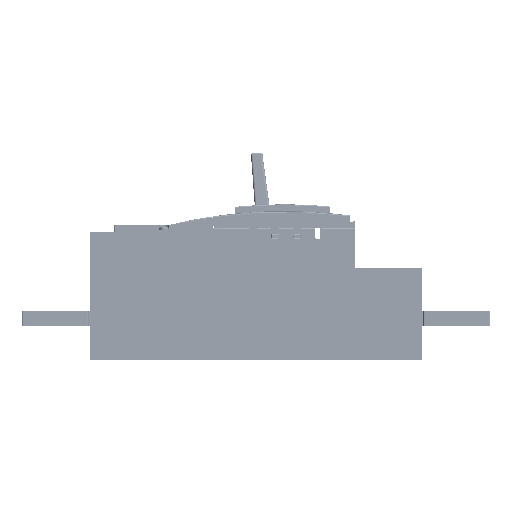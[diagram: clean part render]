
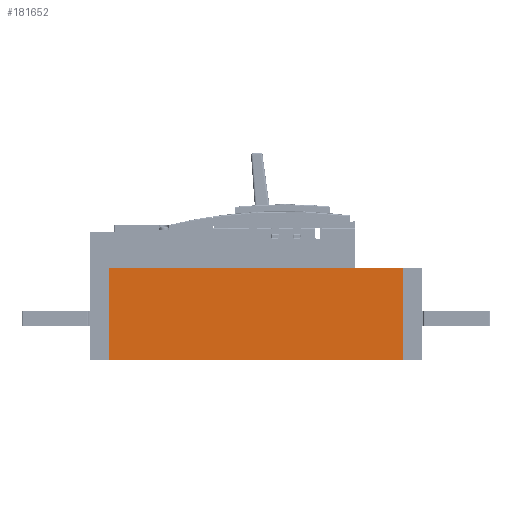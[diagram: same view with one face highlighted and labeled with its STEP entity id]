
A CAD part, left-side view. The second image highlights one B-rep face of the part: STEP entity #181652.
In plain terms, the highlighted planar face has unit normal (-1, 0, 0).
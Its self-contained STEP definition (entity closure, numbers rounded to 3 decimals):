
#5745 = EDGE_CURVE ( 'NONE', #5748, #5751, #219480, .T. ) ;
#5748 = VERTEX_POINT ( 'NONE', #219475 ) ;
#5751 = VERTEX_POINT ( 'NONE', #219474 ) ;
#5882 = VERTEX_POINT ( 'NONE', #220153 ) ;
#6169 = EDGE_CURVE ( 'NONE', #5882, #6171, #221825, .T. ) ;
#6171 = VERTEX_POINT ( 'NONE', #221949 ) ;
#94729 = FACE_OUTER_BOUND ( 'NONE', #181659, .T. ) ;
#94731 = DIRECTION ( 'NONE',  ( 0., 0., -1. ) ) ;
#94733 = VECTOR ( 'NONE', #94731, 1000. ) ;
#94735 = CARTESIAN_POINT ( 'NONE',  ( -128.283, 376.423, 95. ) ) ;
#94737 = LINE ( 'NONE', #94735, #94733 ) ;
#94796 = DIRECTION ( 'NONE',  ( 0., 0., -1. ) ) ;
#94798 = DIRECTION ( 'NONE',  ( 1., 0., 0. ) ) ;
#94800 = CARTESIAN_POINT ( 'NONE',  ( -128.283, 66.423, 95. ) ) ;
#94801 = AXIS2_PLACEMENT_3D ( 'NONE', #94800, #94798, #94796 ) ;
#94808 = PLANE ( 'NONE',  #94801 ) ;
#101276 = VECTOR ( 'NONE', #101470, 1000. ) ;
#101278 = CARTESIAN_POINT ( 'NONE',  ( -128.283, 66.423, 95. ) ) ;
#101280 = LINE ( 'NONE', #101278, #101276 ) ;
#101470 = DIRECTION ( 'NONE',  ( 0., 0., -1. ) ) ;
#137344 = ORIENTED_EDGE ( 'NONE', *, *, #137348, .F. ) ;
#137348 = EDGE_CURVE ( 'NONE', #6171, #5751, #101280, .T. ) ;
#137349 = ORIENTED_EDGE ( 'NONE', *, *, #6169, .F. ) ;
#181647 = EDGE_CURVE ( 'NONE', #5882, #5748, #94737, .T. ) ;
#181652 = ADVANCED_FACE ( 'NONE', ( #94729 ), #94808, .F. ) ;
#181659 = EDGE_LOOP ( 'NONE', ( #181669, #181670, #137344, #137349 ) ) ;
#181669 = ORIENTED_EDGE ( 'NONE', *, *, #181647, .T. ) ;
#181670 = ORIENTED_EDGE ( 'NONE', *, *, #5745, .T. ) ;
#219474 = CARTESIAN_POINT ( 'NONE',  ( -128.283, 66.423, -1.5 ) ) ;
#219475 = CARTESIAN_POINT ( 'NONE',  ( -128.283, 376.423, -1.5 ) ) ;
#219476 = DIRECTION ( 'NONE',  ( 0., -1., 0. ) ) ;
#219478 = VECTOR ( 'NONE', #219476, 1000. ) ;
#219479 = CARTESIAN_POINT ( 'NONE',  ( -128.283, 66.423, -1.5 ) ) ;
#219480 = LINE ( 'NONE', #219479, #219478 ) ;
#220153 = CARTESIAN_POINT ( 'NONE',  ( -128.283, 376.423, 95. ) ) ;
#221819 = DIRECTION ( 'NONE',  ( 0., -1., 0. ) ) ;
#221822 = VECTOR ( 'NONE', #221819, 1000. ) ;
#221824 = CARTESIAN_POINT ( 'NONE',  ( -128.283, 66.423, 95. ) ) ;
#221825 = LINE ( 'NONE', #221824, #221822 ) ;
#221949 = CARTESIAN_POINT ( 'NONE',  ( -128.283, 66.423, 95. ) ) ;
